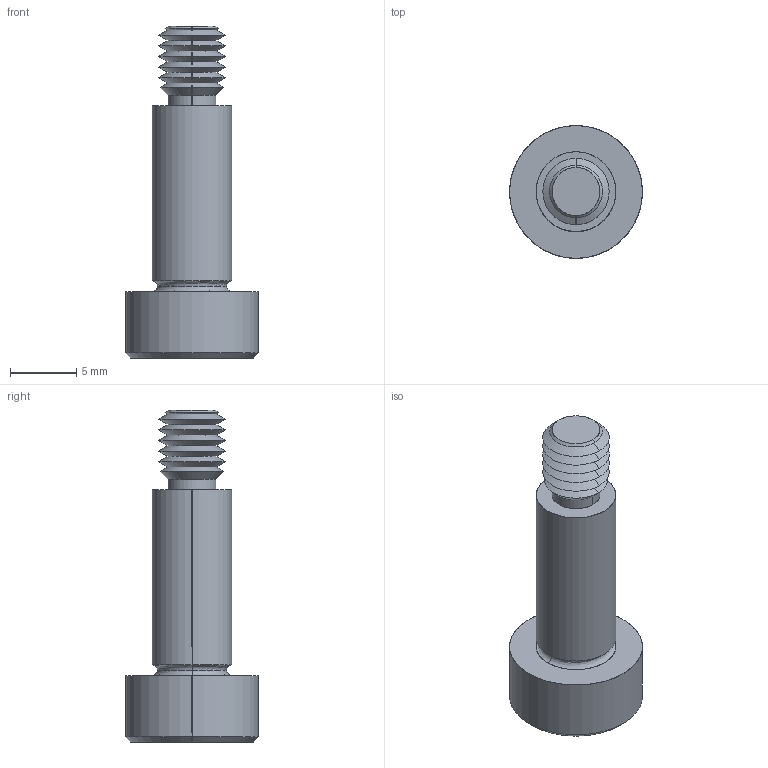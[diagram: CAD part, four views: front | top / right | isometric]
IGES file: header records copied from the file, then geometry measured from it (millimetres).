
Start section: SolidWorks IGES file using analytic representation for surfaces
Global section: file name: C:\Users\IanO\Documents\Temp Folder\GENERAL\SCREW REVISION\P0130_v2\P0130.T5_v2_20220106_IGES\P0130.060-014-T5.igs; native system: SolidWorks 2019; preprocessor: SolidWorks 2019; author: IanO; date: 220106.222322; units: millimetre
Bounding box: 10 x 10 x 25 mm (x, y, z)
Surface area: 751.5 mm2 (no closed solid volume)
Topology: 0 solids, 0 shells, 64 faces, 504 edges, 502 vertices
Faces by surface type: revolution 44, bspline 20
